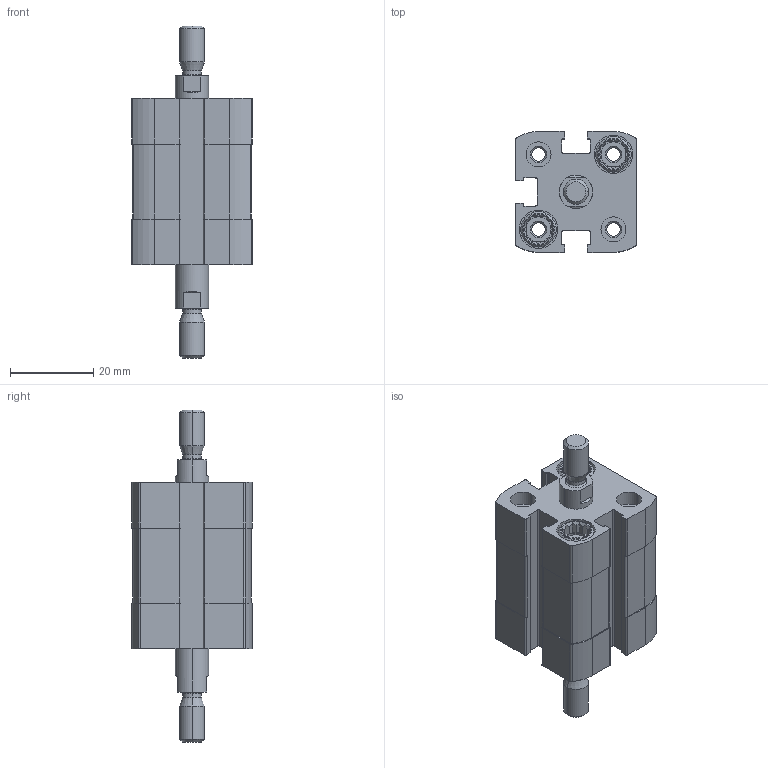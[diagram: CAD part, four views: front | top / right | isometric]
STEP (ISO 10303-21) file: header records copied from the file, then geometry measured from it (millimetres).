
FILE_DESCRIPTION (( 'STEP AP203' ), '1' );
FILE_NAME ('CCN16-5-P.STEP', '2020-06-22T18:36:28', ( '' ), ( '' ), 'SwSTEP 2.0', 'SolidWorks 2019', '' );
FILE_SCHEMA (( 'CONFIG_CONTROL_DESIGN' ));
Length unit declared in the file: millimetre
Products named in the file (1): CCN16-5-P
Bounding box: 29 x 29 x 79.7 mm (x, y, z)
Volume: 26838.5 mm3; surface area: 14334.4 mm2
Topology: 2 solids, 2 shells, 384 faces, 976 edges, 632 vertices
Faces by surface type: plane 192, cylinder 140, cone 44, torus 8
Entity records: 11783 total; most frequent: CARTESIAN_POINT 2293, DIRECTION 1986, ORIENTED_EDGE 1952, EDGE_CURVE 976, AXIS2_PLACEMENT_3D 725, VERTEX_POINT 632, VECTOR 536, LINE 536
